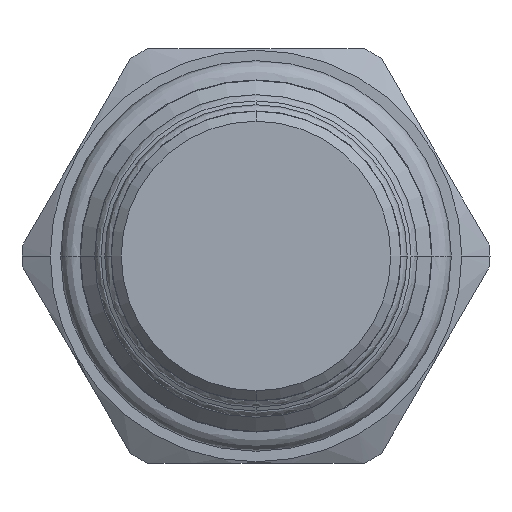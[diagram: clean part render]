
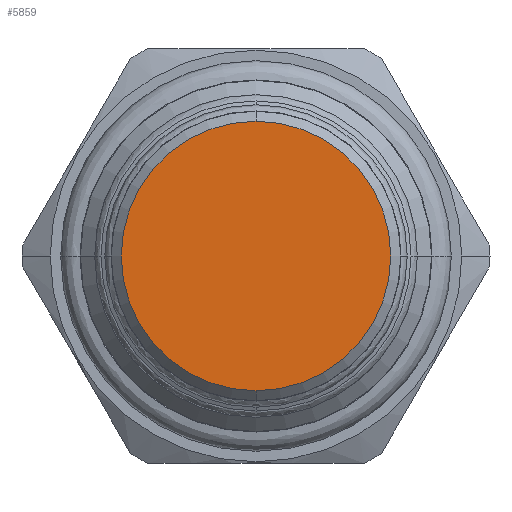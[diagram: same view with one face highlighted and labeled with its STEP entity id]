
A CAD part, front view. The second image highlights one B-rep face of the part: STEP entity #5859.
In plain terms, the highlighted planar face has unit normal (0, -1, 0).
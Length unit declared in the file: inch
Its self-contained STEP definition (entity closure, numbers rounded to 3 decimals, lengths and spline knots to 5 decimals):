
#2215=CARTESIAN_POINT('',(0.,-2.7795,0.));
#2216=DIRECTION('',(0.,1.,0.));
#2217=DIRECTION('',(0.,0.,-1.));
#2218=AXIS2_PLACEMENT_3D('',#2215,#2216,#2217);
#2225=CARTESIAN_POINT('',(0.,-2.7795,0.));
#2226=DIRECTION('',(0.,1.,0.));
#2227=DIRECTION('',(0.,0.,1.));
#2228=AXIS2_PLACEMENT_3D('',#2225,#2226,#2227);
#2874=CARTESIAN_POINT('',(0.,-2.7795,-0.406));
#2875=CARTESIAN_POINT('',(0.,-2.7795,0.406));
#2876=VERTEX_POINT('',#2874);
#2877=VERTEX_POINT('',#2875);
#5849=CARTESIAN_POINT('',(0.,-2.7795,0.));
#5850=DIRECTION('',(0.,-1.,0.));
#5851=DIRECTION('',(0.,0.,-1.));
#5852=AXIS2_PLACEMENT_3D('',#5849,#5850,#5851);
#5853=PLANE('',#5852);
#5855=ORIENTED_EDGE('',*,*,#5854,.T.);
#5856=ORIENTED_EDGE('',*,*,#5839,.T.);
#5857=EDGE_LOOP('',(#5855,#5856));
#5858=FACE_OUTER_BOUND('',#5857,.F.);
#5859=ADVANCED_FACE('',(#5858),#5853,.T.);
#2219=CIRCLE('',#2218,0.406);
#2229=CIRCLE('',#2228,0.406);
#5839=EDGE_CURVE('',#2876,#2877,#2219,.T.);
#5854=EDGE_CURVE('',#2877,#2876,#2229,.T.);
